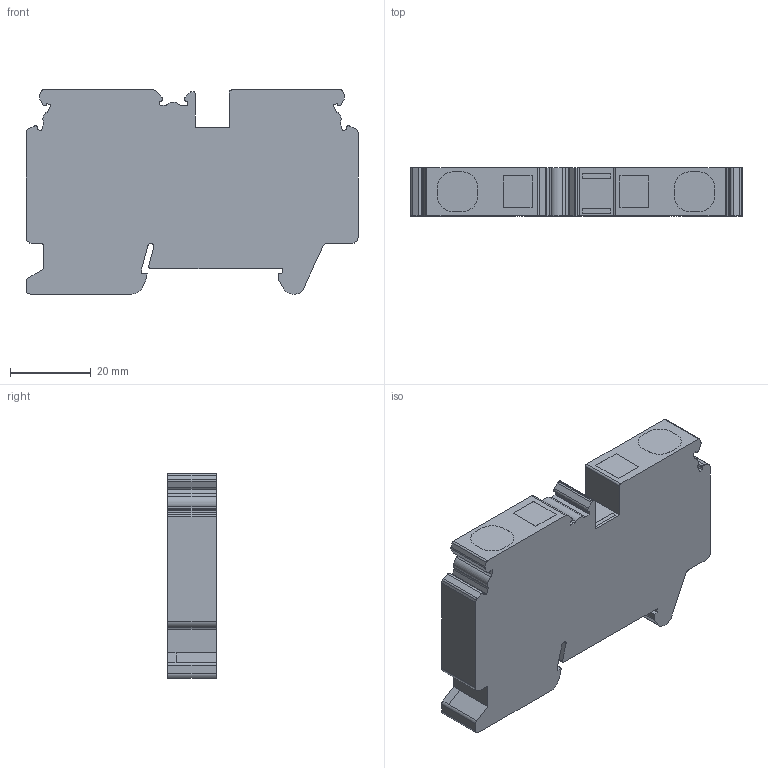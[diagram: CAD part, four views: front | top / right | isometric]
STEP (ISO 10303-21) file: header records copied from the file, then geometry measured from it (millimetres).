
FILE_DESCRIPTION( ( 'Unknown' ), '1' );
FILE_NAME( 'Z:/Product Configurator/3d/stp1/CSC16T.stp', 'Unknown', ( 'Unknown' ), ( 'Unknown' ), 'PSStep 17.0.49', 'Unknown', ' ' );
FILE_SCHEMA( ( 'AUTOMOTIVE_DESIGN { 1 0 10303 214 1 1 1 1 }' ) );
Length unit declared in the file: millimetre
Products named in the file (1): 1
Bounding box: 82 x 11.9 x 50.4 mm (x, y, z)
Volume: 42231.9 mm3; surface area: 10936.1 mm2
Topology: 1 solids, 1 shells, 153 faces, 435 edges, 290 vertices
Faces by surface type: plane 86, cylinder 67
Entity records: 6243 total; most frequent: CARTESIAN_POINT 879, DIRECTION 877, ORIENTED_EDGE 870, EDGE_CURVE 435, LINE 301, VECTOR 301, VERTEX_POINT 290, AXIS2_PLACEMENT_3D 288
